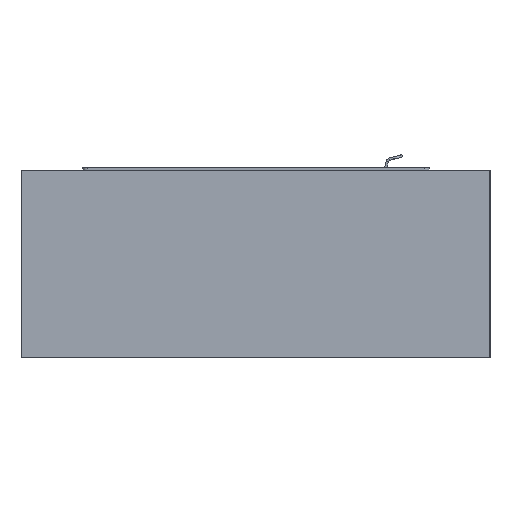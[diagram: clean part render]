
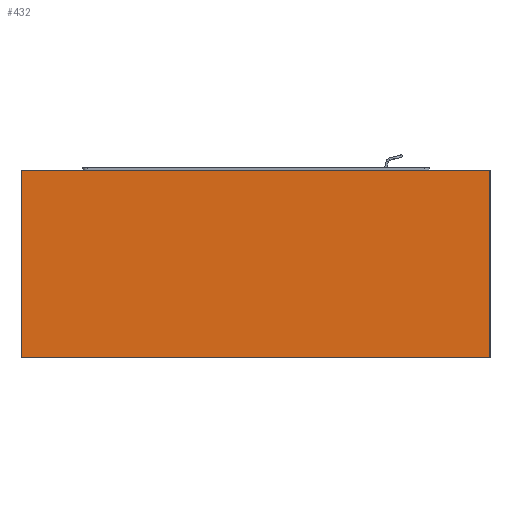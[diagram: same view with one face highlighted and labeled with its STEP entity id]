
A CAD part, left-side view. The second image highlights one B-rep face of the part: STEP entity #432.
In plain terms, the highlighted planar face has unit normal (-1, 0, 0).
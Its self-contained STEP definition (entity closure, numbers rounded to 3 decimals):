
#143=DIRECTION('',(0.,-1.,0.));
#144=VECTOR('',#143,500.);
#145=CARTESIAN_POINT('',(-350.,250.,0.));
#146=LINE('',#145,#144);
#227=DIRECTION('',(0.,-1.,0.));
#228=VECTOR('',#227,500.);
#229=CARTESIAN_POINT('',(-350.,250.,200.));
#230=LINE('',#229,#228);
#255=DIRECTION('',(0.,0.,1.));
#256=VECTOR('',#255,200.);
#257=CARTESIAN_POINT('',(-350.,250.,0.));
#258=LINE('',#257,#256);
#276=DIRECTION('',(0.,0.,1.));
#277=VECTOR('',#276,200.);
#278=CARTESIAN_POINT('',(-350.,-250.,0.));
#279=LINE('',#278,#277);
#291=CARTESIAN_POINT('',(-350.,250.,0.));
#292=CARTESIAN_POINT('',(-350.,-250.,0.));
#293=VERTEX_POINT('',#291);
#294=VERTEX_POINT('',#292);
#307=CARTESIAN_POINT('',(-350.,250.,200.));
#308=CARTESIAN_POINT('',(-350.,-250.,200.));
#309=VERTEX_POINT('',#307);
#310=VERTEX_POINT('',#308);
#419=CARTESIAN_POINT('',(-350.,250.,0.));
#420=DIRECTION('',(-1.,0.,0.));
#421=DIRECTION('',(0.,-1.,0.));
#422=AXIS2_PLACEMENT_3D('',#419,#420,#421);
#423=PLANE('',#422);
#424=ORIENTED_EDGE('',*,*,#320,.F.);
#426=ORIENTED_EDGE('',*,*,#425,.T.);
#427=ORIENTED_EDGE('',*,*,#402,.T.);
#429=ORIENTED_EDGE('',*,*,#428,.F.);
#430=EDGE_LOOP('',(#424,#426,#427,#429));
#431=FACE_OUTER_BOUND('',#430,.F.);
#320=EDGE_CURVE('',#293,#294,#146,.T.);
#402=EDGE_CURVE('',#309,#310,#230,.T.);
#425=EDGE_CURVE('',#293,#309,#258,.T.);
#428=EDGE_CURVE('',#294,#310,#279,.T.);
#432=ADVANCED_FACE('',(#431),#423,.T.);
